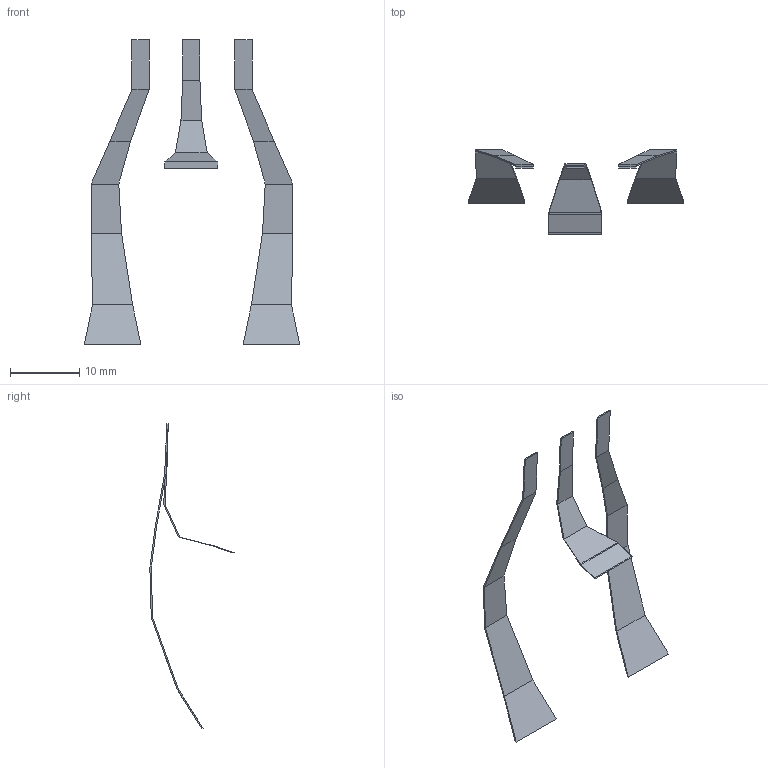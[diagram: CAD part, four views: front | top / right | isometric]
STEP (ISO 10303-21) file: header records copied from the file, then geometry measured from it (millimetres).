
FILE_DESCRIPTION(('Open CASCADE Model'),'2;1');
FILE_NAME('gelslim-mini-led-flex-pcb-assembly.step', '2026-11-14T14:29:29',('Author'),('Open CASCADE'), 'Open CASCADE STEP processor 8.0','Open CASCADE 8.0','Unknown');
FILE_SCHEMA(('AP242_MANAGED_MODEL_BASED_3D_ENGINEERING_MIM_LF {1 0 10303 442 1 1 4 }' ));
Length unit declared in the file: millimetre
Products named in the file (1): GelSlim Mini LED Flex PCB Assembly
Bounding box: 31.2 x 12.2 x 44.1 mm (x, y, z)
Volume: 86.2 mm3; surface area: 1044 mm2
Topology: 15 solids, 15 shells, 146 faces, 292 edges, 176 vertices
Faces by surface type: plane 86, bspline 60
Entity records: 7404 total; most frequent: CARTESIAN_POINT 1489, DIRECTION 940, LINE 766, VECTOR 766, ORIENTED_EDGE 584, PCURVE 584, DEFINITIONAL_REPRESENTATION 584, EDGE_CURVE 292
